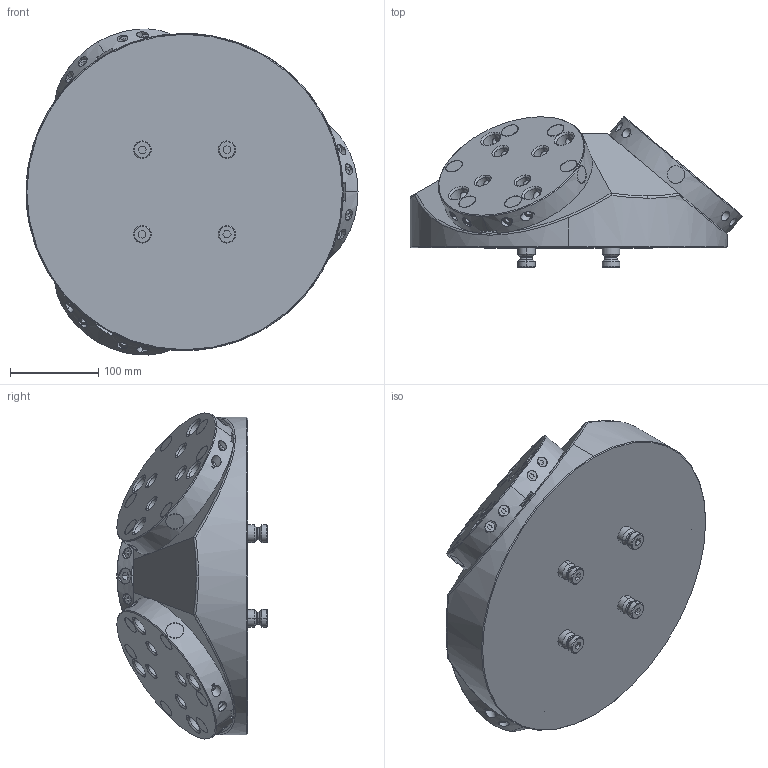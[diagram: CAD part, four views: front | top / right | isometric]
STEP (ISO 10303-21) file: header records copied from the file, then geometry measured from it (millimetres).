
FILE_DESCRIPTION (( 'STEP AP214' ), '1' );
FILE_NAME ('43360.STEP', '2024-12-11T12:47:01', ( '' ), ( '' ), 'SwSTEP 2.0', 'SolidWorks 2021', '' );
FILE_SCHEMA (( 'AUTOMOTIVE_DESIGN' ));
Length unit declared in the file: millimetre
Products named in the file (1): 43360
Bounding box: 376.72 x 170.56 x 369.98 mm (x, y, z)
Volume: 9460931.2 mm3; surface area: 650670.6 mm2
Topology: 59 solids, 59 shells, 1609 faces, 3692 edges, 2210 vertices
Faces by surface type: cylinder 616, plane 484, cone 369, torus 128, bspline 12
Entity records: 75898 total; most frequent: CARTESIAN_POINT 21183, DIRECTION 7857, ORIENTED_EDGE 7204, EDGE_CURVE 3602, AXIS2_PLACEMENT_3D 3064, VERTEX_POINT 2210, EDGE_LOOP 1894, VECTOR 1729
